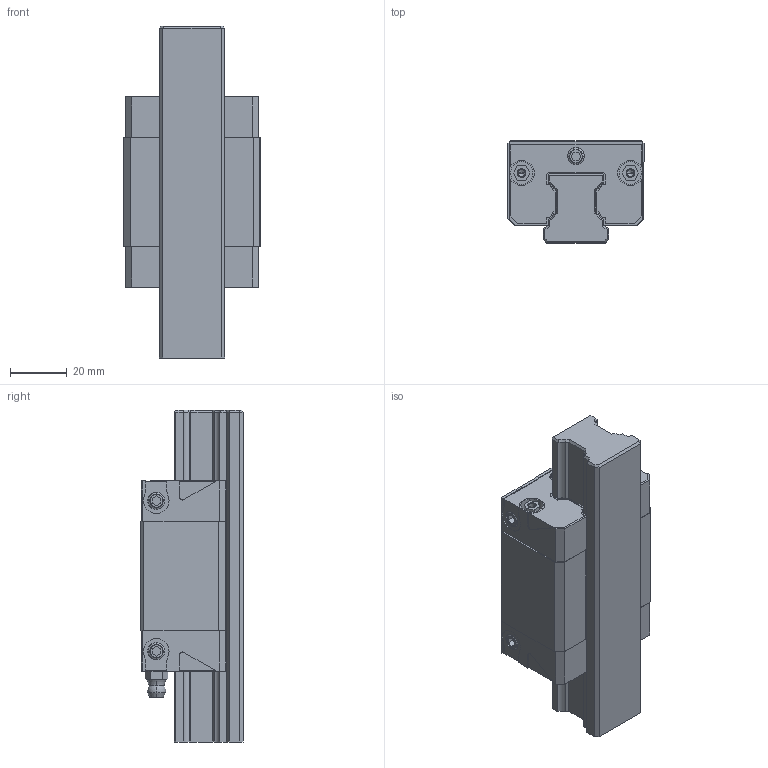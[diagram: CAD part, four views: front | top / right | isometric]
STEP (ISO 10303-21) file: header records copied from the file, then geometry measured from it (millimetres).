
FILE_DESCRIPTION((''),'2;1');
FILE_NAME('KWD_025_SKS_CS__ASM','2021-10-14T07:13:48',('ac91sw'),(''),'CREO PARAMETRIC BY PTC INC, 2020044','CREO PARAMETRIC BY PTC INC, 2020044','');
FILE_SCHEMA(('AUTOMOTIVE_DESIGN { 1 0 10303 214 1 1 1 1 }'));
Length unit declared in the file: millimetre
Products named in the file (7): KWD_025_SKS_CS__SKEL; R201020131; R200120102_Z; R343706101_Z; KWD_025_SKS_CS__PSF; R341700802_Z; KWD_025_SKS_CS__ASM
Assembly tree (11 placements, depth 2):
  KWD_025_SKS_CS__ASM
    KWD_025_SKS_CS__SKEL
    R201020131
    R200120102_Z  x2
    R343706101_Z  x5
    KWD_025_SKS_CS__PSF
    R341700802_Z
Bounding box: 48 x 36 x 117 mm (x, y, z)
Volume: 113310.3 mm3; surface area: 38393.9 mm2
Topology: 10 solids, 22 shells, 494 faces, 1266 edges, 804 vertices
Faces by surface type: plane 290, cylinder 134, cone 64, torus 4, sphere 2
Entity records: 15928 total; most frequent: CARTESIAN_POINT 1861, DIRECTION 1548, ORIENTED_EDGE 1468, PROPERTY_DEFINITION 823, REPRESENTATION 814, PROPERTY_DEFINITION_REPRESENTATION 814, DESCRIPTIVE_REPRESENTATION_ITEM 757, GENERAL_PROPERTY 749
